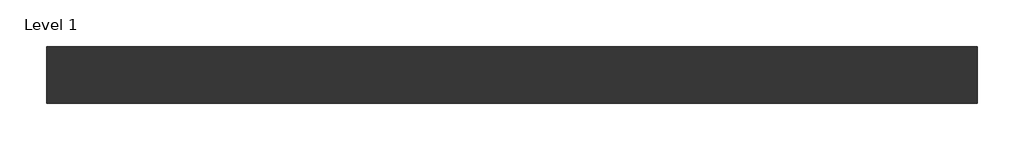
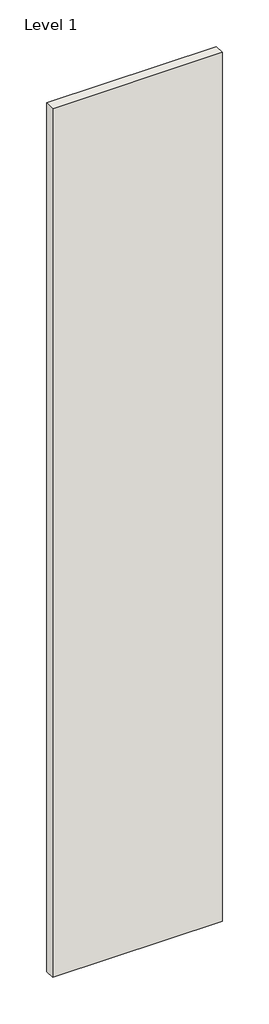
# One storey: 1 wall.
"""IFC4 building model written with IfcOpenShell, lengths in millimetres."""

from ifc_helpers import new_model, si_unit, origin, origin_with_axes, place, context, project, spatial, polyline, outline, extrude, element, save

model = new_model("IFC4")

# Units and contexts
model_context = context("Model", 3, world=origin())
ifc_project = project(units=[si_unit("LENGTHUNIT", "METRE", prefix="MILLI")], contexts=[model_context])

# Site, building, storey
site = spatial("IfcSite", under=ifc_project)
building = spatial("IfcBuilding", under=site)
storey = spatial("IfcBuildingStorey", under=building, Name="Level 1", Elevation=0.0)

# Wall
placement = place(None, origin())
element("IfcWall", 1, ObjectType="Trasdosado Simple – Placo® Habito® 73(48) HBT13 + BA13 + 48LM c/400", at=placement, inside=storey, context=model_context, shape_type="SweptSolid", body=[
    extrude(outline(polyline([(-27296.4711674, -88665.3970389), (-28496.4711674, -88665.3970389), (-28496.4711674, -88592.3970389), (-27296.4711674, -88592.3970389), (-27296.4711674, -88665.3970389)])), origin_with_axes(), (0.0, 0.0, 1.0), 6500.0),
])

save(model, "model.ifc")
